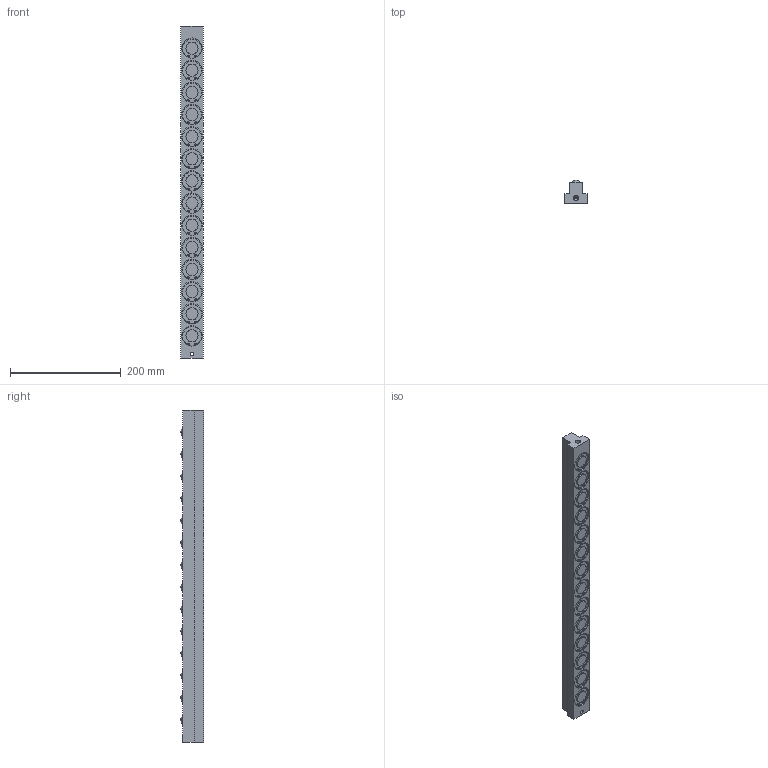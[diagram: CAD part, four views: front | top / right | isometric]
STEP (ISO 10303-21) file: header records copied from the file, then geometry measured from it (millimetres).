
FILE_DESCRIPTION (( 'STEP AP203' ), '1' );
FILE_NAME ('PVL30T-14.STEP', '2015-12-24T08:34:56', ( '' ), ( '' ), 'SwSTEP 2.0', 'SolidWorks 2013', '' );
FILE_SCHEMA (( 'CONFIG_CONTROL_DESIGN' ));
Length unit declared in the file: millimetre
Products named in the file (1): PVL30T-14
Bounding box: 40 x 42 x 600 mm (x, y, z)
Volume: 678800.5 mm3; surface area: 113772.1 mm2
Topology: 1 solids, 1 shells, 456 faces, 1158 edges, 775 vertices
Faces by surface type: cylinder 286, plane 138, sphere 28, cone 4
Entity records: 14241 total; most frequent: DIRECTION 2786, CARTESIAN_POINT 2388, ORIENTED_EDGE 2312, AXIS2_PLACEMENT_3D 1173, EDGE_CURVE 1156, VERTEX_POINT 775, CIRCLE 716, EDGE_LOOP 531
